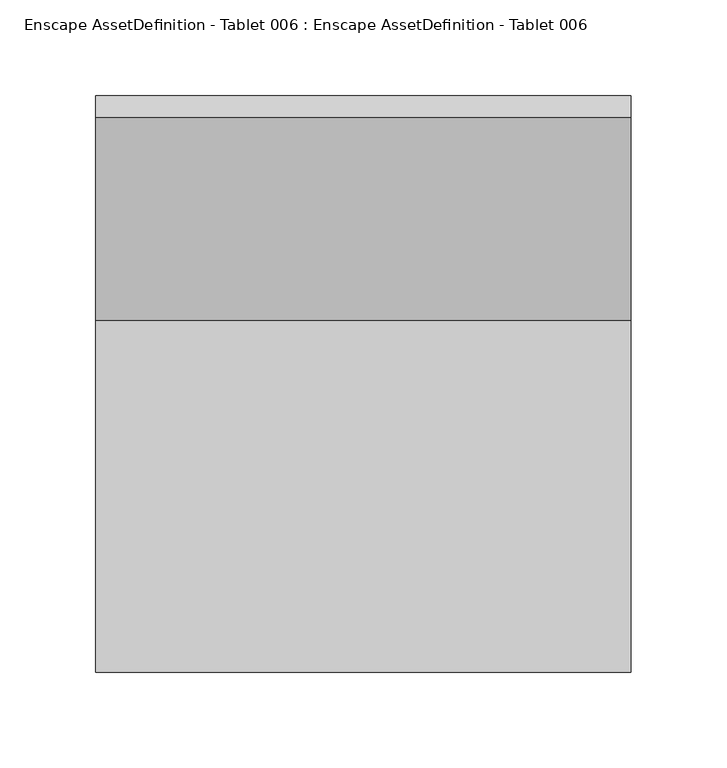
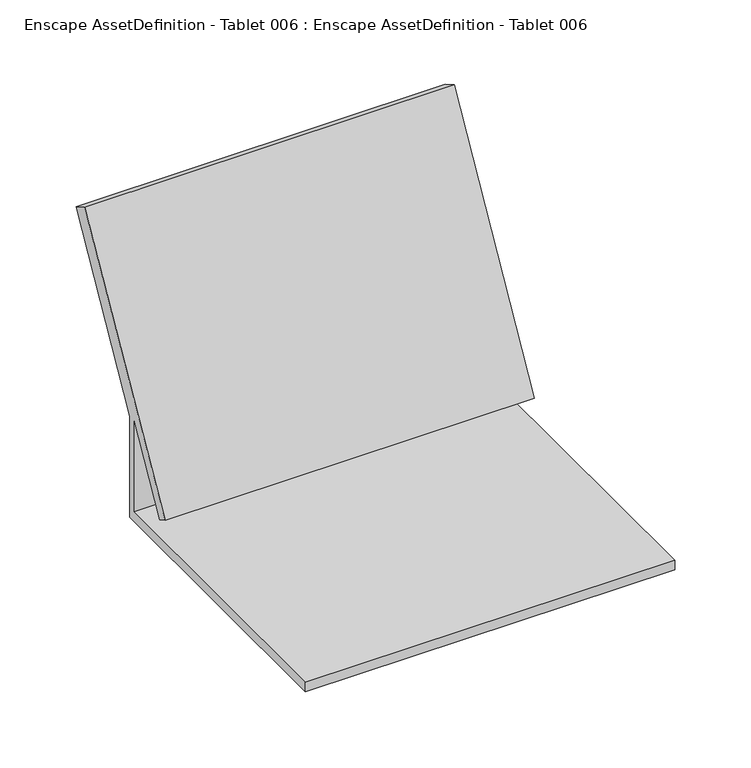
"""IFC4 building model written with IfcOpenShell, lengths in millimetres: geographic element geometry, Enscape AssetDefinition - Tablet 006 : Enscape AssetDefinition - Tablet 006."""

from ifc_helpers import new_model, si_unit, origin, place, context, project, spatial, triangles, source, transform, mapped, element, save


def enscape_assetdefinition_tablet_006_enscape_assetdefinition_a1b86c75(model_context):
    return source(origin(), model_context, "Body", "Tessellation", [
        triangles([(-139.9219917, -141.9219968, 7.4999998), (139.9219917, -141.9219968, 7.4999998), (139.9219917, -141.9219968, 0.0), (-139.9219917, 83.5620052, 7.4999998), (139.9219917, 83.5620052, 7.4999998), (139.9219917, 88.5619998, 0.0), (139.9219917, 88.5619998, 81.3420008), (-139.9219917, 88.5619998, 81.3420008), (-139.9219917, 88.5619998, 0.0), (-139.9219917, -141.9219968, 0.0), (-139.9219917, 159.2099949, 206.4360004), (-139.9219917, 83.5620052, 82.6570005), (-139.9219917, 147.6590012, 212.9590034), (139.9219917, 159.2099949, 206.4360004), (139.9219917, 83.5620052, 82.6570005), (139.9219917, 42.047002, 25.9559988), (139.9219917, 147.6590012, 212.9590034), (139.9219917, 49.2440009, 21.8920004), (-139.9219917, 49.2440009, 21.8920004), (-139.9219917, 42.047002, 25.9559988)], [[15, 19, 12], [15, 18, 19], [20, 12, 19], [18, 20, 19], [18, 16, 20], [15, 16, 18], [12, 20, 13], [16, 13, 20], [16, 17, 13], [15, 17, 16], [15, 14, 17], [11, 13, 17], [11, 17, 14], [12, 13, 11], [11, 14, 7], [14, 15, 7], [4, 12, 8], [12, 11, 8], [11, 7, 8], [4, 9, 10], [4, 8, 9], [8, 7, 6], [8, 6, 9], [5, 6, 7], [5, 15, 12], [5, 7, 15], [5, 12, 4], [9, 6, 3], [5, 3, 6], [9, 3, 10], [1, 10, 3], [4, 10, 1], [5, 2, 3], [2, 5, 4], [1, 3, 2], [2, 4, 1]]),
    ])


if __name__ == "__main__":
    model = new_model("IFC4")
    model_context = context("Model", 3, world=origin())
    ifc_project = project(units=[si_unit("LENGTHUNIT", "METRE", prefix="MILLI")], contexts=[model_context])
    site = spatial("IfcSite", under=ifc_project)
    building = spatial("IfcBuilding", under=site)
    placement = place(None, origin())
    enscape_assetdefinition_tablet_006_enscape_assetdefinition_shape = enscape_assetdefinition_tablet_006_enscape_assetdefinition_a1b86c75(model_context)
    element("IfcGeographicElement", 1, ObjectType="Enscape AssetDefinition - Tablet 006 : Enscape AssetDefinition - Tablet 006", at=placement, inside=building, context=model_context, shape_type="MappedRepresentation", body=[
        mapped(enscape_assetdefinition_tablet_006_enscape_assetdefinition_shape, transform((0.0, 0.0, 0.0), x_axis=(1.0, 0.0, 0.0), y_axis=(0.0, 1.0, 0.0), z_axis=(0.0, 0.0, 1.0))),
    ])
    save(model, "model.ifc")
